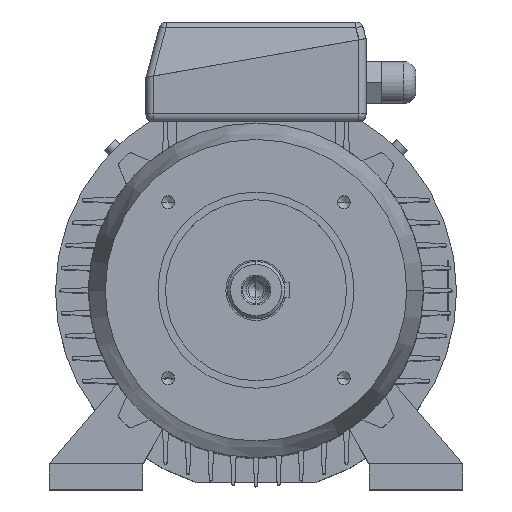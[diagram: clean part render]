
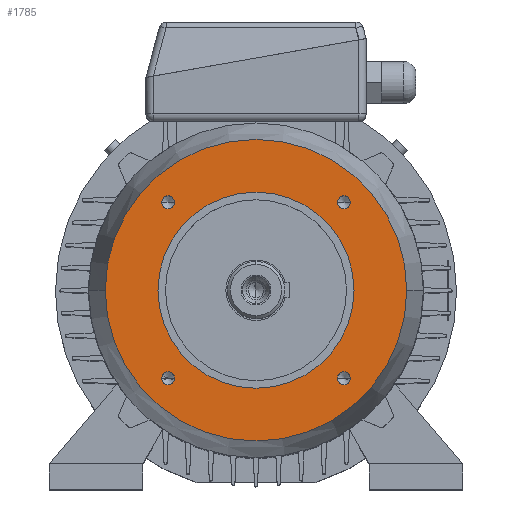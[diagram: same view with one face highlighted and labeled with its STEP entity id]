
A CAD part, top view. The second image highlights one B-rep face of the part: STEP entity #1785.
In plain terms, the highlighted planar face has unit normal (0, 0, 1).
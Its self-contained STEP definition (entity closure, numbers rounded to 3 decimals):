
#535 = EDGE_CURVE ( 'NONE', #11618, #12865, #9599, .T. ) ;
#904 = ORIENTED_EDGE ( 'NONE', *, *, #535, .F. ) ;
#1037 = VERTEX_POINT ( 'NONE', #9848 ) ;
#1244 = VERTEX_POINT ( 'NONE', #10032 ) ;
#1513 = EDGE_LOOP ( 'NONE', ( #6223, #5208 ) ) ;
#1766 = ORIENTED_EDGE ( 'NONE', *, *, #6618, .F. ) ;
#1785 = ADVANCED_FACE ( 'NONE', ( #10285, #10287, #10288, #10289, #10290, #10291 ), #10292, .F. ) ;
#2290 = CARTESIAN_POINT ( 'NONE',  ( 62.586, -58.336, 58. ) ) ;
#2330 = ORIENTED_EDGE ( 'NONE', *, *, #2970, .F. ) ;
#2432 = CIRCLE ( 'NONE', #2433, 4.25 ) ;
#2433 = AXIS2_PLACEMENT_3D ( 'NONE', #2437, #2438, #2439 ) ;
#2437 = CARTESIAN_POINT ( 'NONE',  ( 58.336, -58.336, 58. ) ) ;
#2438 = DIRECTION ( 'NONE',  ( 0., 0., 1. ) ) ;
#2439 = DIRECTION ( 'NONE',  ( 1., 0., 0. ) ) ;
#2729 = VERTEX_POINT ( 'NONE', #10706 ) ;
#2912 = EDGE_LOOP ( 'NONE', ( #2330, #1766 ) ) ;
#2970 = EDGE_CURVE ( 'NONE', #2729, #6510, #10826, .T. ) ;
#3022 = CARTESIAN_POINT ( 'NONE',  ( 54.086, -58.336, 58. ) ) ;
#3180 = ORIENTED_EDGE ( 'NONE', *, *, #6864, .T. ) ;
#3765 = EDGE_CURVE ( 'NONE', #1037, #1244, #11262, .T. ) ;
#3861 = CARTESIAN_POINT ( 'NONE',  ( -54.086, 58.336, 58. ) ) ;
#3946 = CIRCLE ( 'NONE', #3947, 4.25 ) ;
#3947 = AXIS2_PLACEMENT_3D ( 'NONE', #3954, #3955, #3956 ) ;
#3954 = CARTESIAN_POINT ( 'NONE',  ( -58.336, 58.336, 58. ) ) ;
#3955 = DIRECTION ( 'NONE',  ( 0., 0., 1. ) ) ;
#3956 = DIRECTION ( 'NONE',  ( 1., 0., 0. ) ) ;
#4187 = ORIENTED_EDGE ( 'NONE', *, *, #3765, .T. ) ;
#4611 = CARTESIAN_POINT ( 'NONE',  ( -62.586, 58.336, 58. ) ) ;
#4951 = EDGE_LOOP ( 'NONE', ( #4187, #3180 ) ) ;
#5208 = ORIENTED_EDGE ( 'NONE', *, *, #6061, .F. ) ;
#5348 = CIRCLE ( 'NONE', #5349, 4.25 ) ;
#5349 = AXIS2_PLACEMENT_3D ( 'NONE', #5350, #5351, #5352 ) ;
#5350 = CARTESIAN_POINT ( 'NONE',  ( -58.336, 58.336, 58. ) ) ;
#5351 = DIRECTION ( 'NONE',  ( 0., 0., 1. ) ) ;
#5352 = DIRECTION ( 'NONE',  ( 1., 0., 0. ) ) ;
#5741 = CARTESIAN_POINT ( 'NONE',  ( -54.086, -58.336, 58. ) ) ;
#5805 = EDGE_CURVE ( 'NONE', #5806, #7069, #12314, .T. ) ;
#5806 = VERTEX_POINT ( 'NONE', #12319 ) ;
#6061 = EDGE_CURVE ( 'NONE', #7069, #5806, #12485, .T. ) ;
#6223 = ORIENTED_EDGE ( 'NONE', *, *, #5805, .F. ) ;
#6349 = EDGE_LOOP ( 'NONE', ( #904, #13826 ) ) ;
#6483 = CIRCLE ( 'NONE', #6484, 4.25 ) ;
#6484 = AXIS2_PLACEMENT_3D ( 'NONE', #6489, #6490, #6491 ) ;
#6489 = CARTESIAN_POINT ( 'NONE',  ( -58.336, -58.336, 58. ) ) ;
#6490 = DIRECTION ( 'NONE',  ( 0., 0., 1. ) ) ;
#6491 = DIRECTION ( 'NONE',  ( 1., 0., 0. ) ) ;
#6510 = VERTEX_POINT ( 'NONE', #12649 ) ;
#6618 = EDGE_CURVE ( 'NONE', #6510, #2729, #12720, .T. ) ;
#6836 = CIRCLE ( 'NONE', #6837, 4.25 ) ;
#6837 = AXIS2_PLACEMENT_3D ( 'NONE', #6838, #6841, #6842 ) ;
#6838 = CARTESIAN_POINT ( 'NONE',  ( 58.336, -58.336, 58. ) ) ;
#6841 = DIRECTION ( 'NONE',  ( 0., 0., 1. ) ) ;
#6842 = DIRECTION ( 'NONE',  ( 1., 0., 0. ) ) ;
#6864 = EDGE_CURVE ( 'NONE', #1244, #1037, #12835, .T. ) ;
#6981 = CARTESIAN_POINT ( 'NONE',  ( -62.586, -58.336, 58. ) ) ;
#7069 = VERTEX_POINT ( 'NONE', #12949 ) ;
#8358 = VERTEX_POINT ( 'NONE', #2290 ) ;
#8416 = EDGE_CURVE ( 'NONE', #8646, #8358, #2432, .T. ) ;
#8646 = VERTEX_POINT ( 'NONE', #3022 ) ;
#9029 = VERTEX_POINT ( 'NONE', #3861 ) ;
#9085 = EDGE_CURVE ( 'NONE', #9319, #9029, #3946, .T. ) ;
#9319 = VERTEX_POINT ( 'NONE', #4611 ) ;
#9599 = CIRCLE ( 'NONE', #9600, 4.25 ) ;
#9600 = AXIS2_PLACEMENT_3D ( 'NONE', #9601, #9602, #9603 ) ;
#9601 = CARTESIAN_POINT ( 'NONE',  ( -58.336, -58.336, 58. ) ) ;
#9602 = DIRECTION ( 'NONE',  ( 0., 0., 1. ) ) ;
#9603 = DIRECTION ( 'NONE',  ( 1., 0., 0. ) ) ;
#9848 = CARTESIAN_POINT ( 'NONE',  ( -100., 0., 58. ) ) ;
#10032 = CARTESIAN_POINT ( 'NONE',  ( 100., 0., 58. ) ) ;
#10151 = ORIENTED_EDGE ( 'NONE', *, *, #9085, .F. ) ;
#10285 = FACE_BOUND ( 'NONE', #1513, .T. ) ;
#10287 = FACE_OUTER_BOUND ( 'NONE', #4951, .T. ) ;
#10288 = FACE_BOUND ( 'NONE', #2912, .T. ) ;
#10289 = FACE_BOUND ( 'NONE', #6349, .T. ) ;
#10290 = FACE_BOUND ( 'NONE', #13558, .T. ) ;
#10291 = FACE_BOUND ( 'NONE', #11709, .T. ) ;
#10292 = PLANE ( 'NONE',  #10293 ) ;
#10293 = AXIS2_PLACEMENT_3D ( 'NONE', #10294, #10295, #10296 ) ;
#10294 = CARTESIAN_POINT ( 'NONE',  ( 0., 100., 58. ) ) ;
#10295 = DIRECTION ( 'NONE',  ( 0., 0., -1. ) ) ;
#10296 = DIRECTION ( 'NONE',  ( -1., 0., 0. ) ) ;
#10706 = CARTESIAN_POINT ( 'NONE',  ( 65., 0., 58. ) ) ;
#10718 = EDGE_CURVE ( 'NONE', #9029, #9319, #5348, .T. ) ;
#10826 = CIRCLE ( 'NONE', #10827, 65. ) ;
#10827 = AXIS2_PLACEMENT_3D ( 'NONE', #10828, #10829, #10830 ) ;
#10828 = CARTESIAN_POINT ( 'NONE',  ( 0., 0., 58. ) ) ;
#10829 = DIRECTION ( 'NONE',  ( 0., 0., 1. ) ) ;
#10830 = DIRECTION ( 'NONE',  ( 1., 0., 0. ) ) ;
#11128 = ORIENTED_EDGE ( 'NONE', *, *, #10718, .F. ) ;
#11262 = CIRCLE ( 'NONE', #11266, 100. ) ;
#11266 = AXIS2_PLACEMENT_3D ( 'NONE', #11267, #11268, #11269 ) ;
#11267 = CARTESIAN_POINT ( 'NONE',  ( 0., 0., 58. ) ) ;
#11268 = DIRECTION ( 'NONE',  ( 0., 0., 1. ) ) ;
#11269 = DIRECTION ( 'NONE',  ( 1., 0., 0. ) ) ;
#11618 = VERTEX_POINT ( 'NONE', #5741 ) ;
#11709 = EDGE_LOOP ( 'NONE', ( #11128, #10151 ) ) ;
#11875 = EDGE_CURVE ( 'NONE', #12865, #11618, #6483, .T. ) ;
#11982 = ORIENTED_EDGE ( 'NONE', *, *, #8416, .F. ) ;
#12314 = CIRCLE ( 'NONE', #12315, 4.25 ) ;
#12315 = AXIS2_PLACEMENT_3D ( 'NONE', #12316, #12317, #12318 ) ;
#12316 = CARTESIAN_POINT ( 'NONE',  ( 58.336, 58.336, 58. ) ) ;
#12317 = DIRECTION ( 'NONE',  ( 0., 0., 1. ) ) ;
#12318 = DIRECTION ( 'NONE',  ( 1., 0., 0. ) ) ;
#12319 = CARTESIAN_POINT ( 'NONE',  ( 62.586, 58.336, 58. ) ) ;
#12485 = CIRCLE ( 'NONE', #12486, 4.25 ) ;
#12486 = AXIS2_PLACEMENT_3D ( 'NONE', #12487, #12488, #12489 ) ;
#12487 = CARTESIAN_POINT ( 'NONE',  ( 58.336, 58.336, 58. ) ) ;
#12488 = DIRECTION ( 'NONE',  ( 0., 0., 1. ) ) ;
#12489 = DIRECTION ( 'NONE',  ( 1., 0., 0. ) ) ;
#12560 = EDGE_CURVE ( 'NONE', #8358, #8646, #6836, .T. ) ;
#12649 = CARTESIAN_POINT ( 'NONE',  ( -65., 0., 58. ) ) ;
#12720 = CIRCLE ( 'NONE', #12721, 65. ) ;
#12721 = AXIS2_PLACEMENT_3D ( 'NONE', #12722, #12723, #12724 ) ;
#12722 = CARTESIAN_POINT ( 'NONE',  ( 0., 0., 58. ) ) ;
#12723 = DIRECTION ( 'NONE',  ( 0., 0., 1. ) ) ;
#12724 = DIRECTION ( 'NONE',  ( 1., 0., 0. ) ) ;
#12835 = CIRCLE ( 'NONE', #12836, 100. ) ;
#12836 = AXIS2_PLACEMENT_3D ( 'NONE', #12837, #12838, #12839 ) ;
#12837 = CARTESIAN_POINT ( 'NONE',  ( 0., 0., 58. ) ) ;
#12838 = DIRECTION ( 'NONE',  ( 0., 0., 1. ) ) ;
#12839 = DIRECTION ( 'NONE',  ( 1., 0., 0. ) ) ;
#12865 = VERTEX_POINT ( 'NONE', #6981 ) ;
#12949 = CARTESIAN_POINT ( 'NONE',  ( 54.086, 58.336, 58. ) ) ;
#12974 = ORIENTED_EDGE ( 'NONE', *, *, #12560, .F. ) ;
#13558 = EDGE_LOOP ( 'NONE', ( #12974, #11982 ) ) ;
#13826 = ORIENTED_EDGE ( 'NONE', *, *, #11875, .F. ) ;
